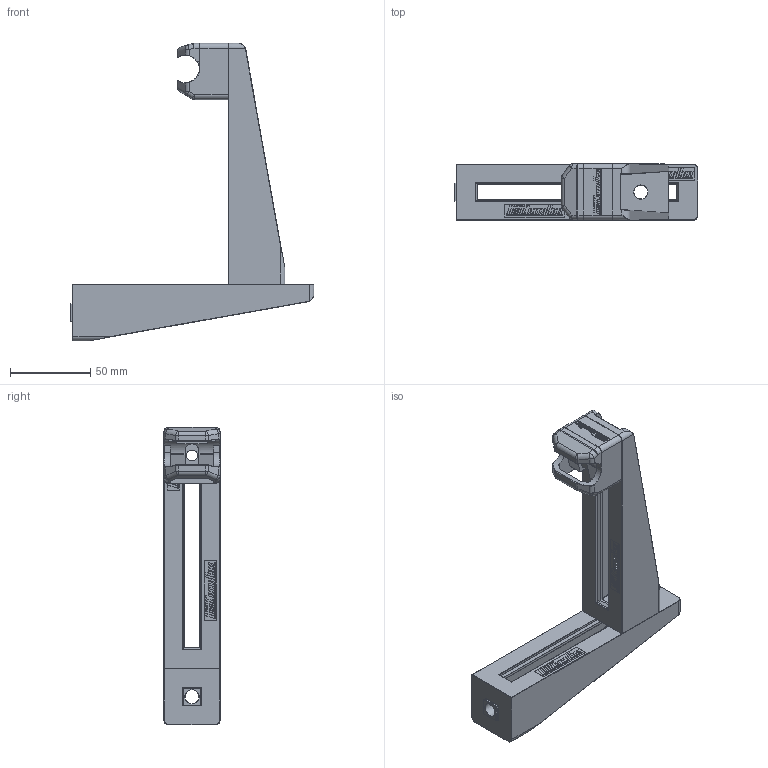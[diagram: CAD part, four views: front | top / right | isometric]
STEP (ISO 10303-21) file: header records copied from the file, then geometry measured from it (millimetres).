
FILE_DESCRIPTION(/* description */ (''),/* implementation_level */ '2;1');
FILE_NAME(/* name */ '\\carryline.intra\privat\users\mathias\Desktop\Tillfälliga filer\300-0860.stp',/* time_stamp */ '2018-11-30T08:05:14+01:00',/* author */ ('PL'),/* organization */ (''),/* preprocessor_version */ 'ST-DEVELOPER v17',/* originating_system */ 'Autodesk Inventor 2018',/* authorisation */ '');
FILE_SCHEMA (('AUTOMOTIVE_DESIGN { 1 0 10303 214 3 1 1 }'));
Length unit declared in the file: millimetre
Products named in the file (3): 300-0860; 300-1000; 300-2150
Assembly tree (3 placements, depth 2):
  300-0860
    300-1000
    300-2150  x2
Bounding box: 151.5 x 35 x 185.1 mm (x, y, z)
Volume: 131828.6 mm3; surface area: 59903.8 mm2
Topology: 5 solids, 5 shells, 1282 faces, 3110 edges, 1840 vertices
Faces by surface type: plane 773, cylinder 286, bspline 94, sphere 68, torus 61
Full cylindrical faces by diameter (mm): 6.647 x1, 8.5 x2, 9 x1
Entity records: 26879 total; most frequent: CARTESIAN_POINT 6330, DIRECTION 4140, ORIENTED_EDGE 4084, EDGE_CURVE 2042, LINE 1444, VECTOR 1444, AXIS2_PLACEMENT_3D 1348, VERTEX_POINT 1235
